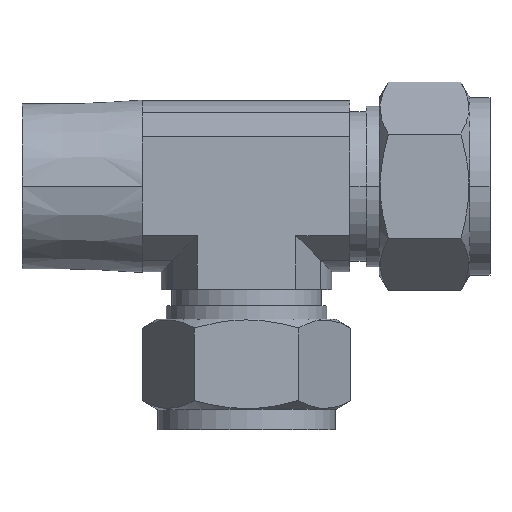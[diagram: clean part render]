
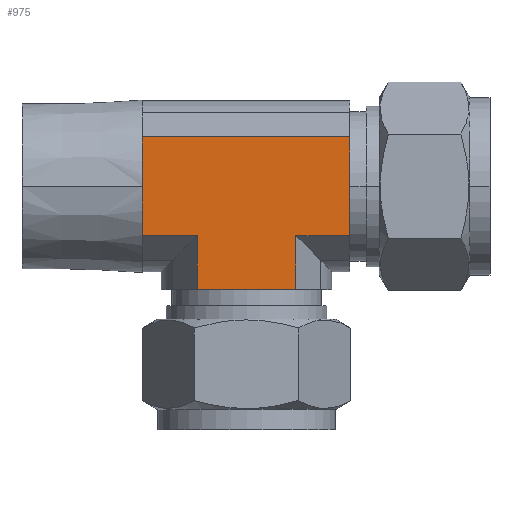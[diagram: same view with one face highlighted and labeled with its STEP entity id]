
A CAD part, top view. The second image highlights one B-rep face of the part: STEP entity #975.
In plain terms, the highlighted planar face has unit normal (0, 0, 1).
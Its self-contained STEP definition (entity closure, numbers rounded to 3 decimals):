
#179 = VERTEX_POINT ( 'NONE', #1476 ) ;
#217 = VERTEX_POINT ( 'NONE', #1432 ) ;
#218 = VERTEX_POINT ( 'NONE', #1431 ) ;
#220 = EDGE_CURVE ( 'NONE', #217, #218, #1430, .T. ) ;
#467 = EDGE_CURVE ( 'NONE', #929, #468, #2739, .T. ) ;
#468 = VERTEX_POINT ( 'NONE', #2735 ) ;
#619 = VERTEX_POINT ( 'NONE', #2120 ) ;
#624 = VERTEX_POINT ( 'NONE', #2115 ) ;
#666 = VERTEX_POINT ( 'NONE', #2243 ) ;
#669 = EDGE_CURVE ( 'NONE', #666, #670, #2257, .T. ) ;
#670 = VERTEX_POINT ( 'NONE', #2253 ) ;
#680 = EDGE_CURVE ( 'NONE', #624, #681, #2164, .T. ) ;
#681 = VERTEX_POINT ( 'NONE', #2160 ) ;
#875 = EDGE_CURVE ( 'NONE', #624, #468, #2351, .T. ) ;
#929 = VERTEX_POINT ( 'NONE', #2473 ) ;
#967 = EDGE_CURVE ( 'NONE', #179, #929, #2396, .T. ) ;
#968 = ORIENTED_EDGE ( 'NONE', *, *, #969, .F. ) ;
#969 = EDGE_CURVE ( 'NONE', #670, #179, #2392, .T. ) ;
#975 = ADVANCED_FACE ( 'NONE', ( #2437 ), #2433, .F. ) ;
#976 = EDGE_LOOP ( 'NONE', ( #977, #978, #980, #981, #983, #984, #985, #986, #987, #968 ) ) ;
#977 = ORIENTED_EDGE ( 'NONE', *, *, #669, .F. ) ;
#978 = ORIENTED_EDGE ( 'NONE', *, *, #979, .F. ) ;
#979 = EDGE_CURVE ( 'NONE', #218, #666, #2431, .T. ) ;
#980 = ORIENTED_EDGE ( 'NONE', *, *, #220, .F. ) ;
#981 = ORIENTED_EDGE ( 'NONE', *, *, #982, .T. ) ;
#982 = EDGE_CURVE ( 'NONE', #217, #619, #2424, .T. ) ;
#983 = ORIENTED_EDGE ( 'NONE', *, *, #992, .F. ) ;
#984 = ORIENTED_EDGE ( 'NONE', *, *, #680, .F. ) ;
#985 = ORIENTED_EDGE ( 'NONE', *, *, #875, .T. ) ;
#986 = ORIENTED_EDGE ( 'NONE', *, *, #467, .F. ) ;
#987 = ORIENTED_EDGE ( 'NONE', *, *, #967, .F. ) ;
#992 = EDGE_CURVE ( 'NONE', #681, #619, #2420, .T. ) ;
#1427 = DIRECTION ( 'NONE',  ( -1., 0., 0. ) ) ;
#1428 = VECTOR ( 'NONE', #1427, 1000. ) ;
#1429 = CARTESIAN_POINT ( 'NONE',  ( 7.794, -16.32, 13.5 ) ) ;
#1430 = LINE ( 'NONE', #1429, #1428 ) ;
#1431 = CARTESIAN_POINT ( 'NONE',  ( -7.794, -16.32, 13.5 ) ) ;
#1432 = CARTESIAN_POINT ( 'NONE',  ( 7.794, -16.32, 13.5 ) ) ;
#1476 = CARTESIAN_POINT ( 'NONE',  ( -16.5, -1.853, 13.5 ) ) ;
#2115 = CARTESIAN_POINT ( 'NONE',  ( 16.32, 7.794, 13.5 ) ) ;
#2120 = CARTESIAN_POINT ( 'NONE',  ( 7.794, -7.794, 13.5 ) ) ;
#2160 = CARTESIAN_POINT ( 'NONE',  ( 16.32, -7.794, 13.5 ) ) ;
#2161 = DIRECTION ( 'NONE',  ( 0., -1., 0. ) ) ;
#2162 = VECTOR ( 'NONE', #2161, 1000. ) ;
#2163 = CARTESIAN_POINT ( 'NONE',  ( 16.32, 7.794, 13.5 ) ) ;
#2164 = LINE ( 'NONE', #2163, #2162 ) ;
#2243 = CARTESIAN_POINT ( 'NONE',  ( -7.794, -7.794, 13.5 ) ) ;
#2253 = CARTESIAN_POINT ( 'NONE',  ( -16.5, -7.794, 13.5 ) ) ;
#2254 = DIRECTION ( 'NONE',  ( -1., 0., 0. ) ) ;
#2255 = VECTOR ( 'NONE', #2254, 1000. ) ;
#2256 = CARTESIAN_POINT ( 'NONE',  ( 16.32, -7.794, 13.5 ) ) ;
#2257 = LINE ( 'NONE', #2256, #2255 ) ;
#2348 = DIRECTION ( 'NONE',  ( -1., 0., 0. ) ) ;
#2349 = VECTOR ( 'NONE', #2348, 1000. ) ;
#2350 = CARTESIAN_POINT ( 'NONE',  ( 16.32, 7.794, 13.5 ) ) ;
#2351 = LINE ( 'NONE', #2350, #2349 ) ;
#2389 = DIRECTION ( 'NONE',  ( 0., 1., 0. ) ) ;
#2390 = VECTOR ( 'NONE', #2389, 1000. ) ;
#2391 = CARTESIAN_POINT ( 'NONE',  ( -16.5, -7.794, 13.5 ) ) ;
#2392 = LINE ( 'NONE', #2391, #2390 ) ;
#2393 = DIRECTION ( 'NONE',  ( 0., 1., 0. ) ) ;
#2394 = VECTOR ( 'NONE', #2393, 1000. ) ;
#2395 = CARTESIAN_POINT ( 'NONE',  ( -16.5, -7.794, 13.5 ) ) ;
#2396 = LINE ( 'NONE', #2395, #2394 ) ;
#2417 = DIRECTION ( 'NONE',  ( -1., 0., 0. ) ) ;
#2418 = VECTOR ( 'NONE', #2417, 1000. ) ;
#2419 = CARTESIAN_POINT ( 'NONE',  ( 16.32, -7.794, 13.5 ) ) ;
#2420 = LINE ( 'NONE', #2419, #2418 ) ;
#2421 = DIRECTION ( 'NONE',  ( 0., 1., 0. ) ) ;
#2422 = VECTOR ( 'NONE', #2421, 1000. ) ;
#2423 = CARTESIAN_POINT ( 'NONE',  ( 7.794, -16.32, 13.5 ) ) ;
#2424 = LINE ( 'NONE', #2423, #2422 ) ;
#2425 = DIRECTION ( 'NONE',  ( 0., 1., 0. ) ) ;
#2426 = VECTOR ( 'NONE', #2425, 1000. ) ;
#2427 = CARTESIAN_POINT ( 'NONE',  ( -7.794, -16.32, 13.5 ) ) ;
#2428 = DIRECTION ( 'NONE',  ( 0., 1., 0. ) ) ;
#2429 = DIRECTION ( 'NONE',  ( 0., 0., -1. ) ) ;
#2430 = AXIS2_PLACEMENT_3D ( 'NONE', #2432, #2429, #2428 ) ;
#2431 = LINE ( 'NONE', #2427, #2426 ) ;
#2432 = CARTESIAN_POINT ( 'NONE',  ( 16.32, 7.794, 13.5 ) ) ;
#2433 = PLANE ( 'NONE',  #2430 ) ;
#2437 = FACE_OUTER_BOUND ( 'NONE', #976, .T. ) ;
#2473 = CARTESIAN_POINT ( 'NONE',  ( -16.5, 1.853, 13.5 ) ) ;
#2735 = CARTESIAN_POINT ( 'NONE',  ( -16.5, 7.794, 13.5 ) ) ;
#2736 = DIRECTION ( 'NONE',  ( 0., 1., 0. ) ) ;
#2737 = VECTOR ( 'NONE', #2736, 1000. ) ;
#2738 = CARTESIAN_POINT ( 'NONE',  ( -16.5, -7.794, 13.5 ) ) ;
#2739 = LINE ( 'NONE', #2738, #2737 ) ;
